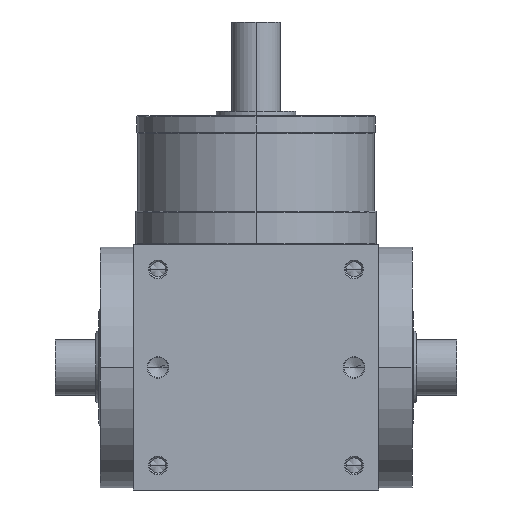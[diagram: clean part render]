
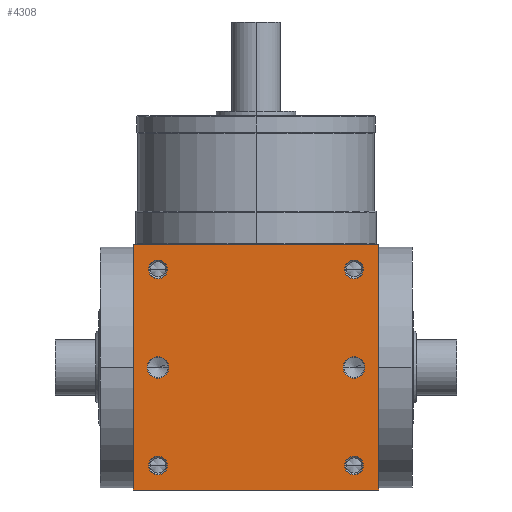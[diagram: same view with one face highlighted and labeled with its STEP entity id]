
A CAD part, front view. The second image highlights one B-rep face of the part: STEP entity #4308.
In plain terms, the highlighted planar face has unit normal (0, -1, 0).
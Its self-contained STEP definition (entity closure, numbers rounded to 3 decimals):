
#5=DIRECTION('',(1.,0.,0.));
#6=VECTOR('',#5,110.);
#7=CARTESIAN_POINT('',(-55.,-55.,-55.));
#8=LINE('',#7,#6);
#155=DIRECTION('',(0.,0.,1.));
#156=VECTOR('',#155,110.);
#157=CARTESIAN_POINT('',(55.,-55.,-55.));
#158=LINE('',#157,#156);
#209=DIRECTION('',(0.,0.,1.));
#210=VECTOR('',#209,110.);
#211=CARTESIAN_POINT('',(-55.,-55.,-55.));
#212=LINE('',#211,#210);
#213=CARTESIAN_POINT('',(44.,-55.,44.));
#214=DIRECTION('',(0.,1.,0.));
#215=DIRECTION('',(-1.,0.,0.));
#216=AXIS2_PLACEMENT_3D('',#213,#214,#215);
#218=CARTESIAN_POINT('',(44.,-55.,44.));
#219=DIRECTION('',(0.,1.,0.));
#220=DIRECTION('',(1.,0.,0.));
#221=AXIS2_PLACEMENT_3D('',#218,#219,#220);
#223=CARTESIAN_POINT('',(-44.,-55.,44.));
#224=DIRECTION('',(0.,1.,0.));
#225=DIRECTION('',(-1.,0.,0.));
#226=AXIS2_PLACEMENT_3D('',#223,#224,#225);
#228=CARTESIAN_POINT('',(-44.,-55.,44.));
#229=DIRECTION('',(0.,1.,0.));
#230=DIRECTION('',(1.,0.,0.));
#231=AXIS2_PLACEMENT_3D('',#228,#229,#230);
#233=CARTESIAN_POINT('',(44.,-55.,-44.));
#234=DIRECTION('',(0.,1.,0.));
#235=DIRECTION('',(-1.,0.,0.));
#236=AXIS2_PLACEMENT_3D('',#233,#234,#235);
#238=CARTESIAN_POINT('',(44.,-55.,-44.));
#239=DIRECTION('',(0.,1.,0.));
#240=DIRECTION('',(1.,0.,0.));
#241=AXIS2_PLACEMENT_3D('',#238,#239,#240);
#243=CARTESIAN_POINT('',(-44.,-55.,-44.));
#244=DIRECTION('',(0.,1.,0.));
#245=DIRECTION('',(-1.,0.,0.));
#246=AXIS2_PLACEMENT_3D('',#243,#244,#245);
#248=CARTESIAN_POINT('',(-44.,-55.,-44.));
#249=DIRECTION('',(0.,1.,0.));
#250=DIRECTION('',(1.,0.,0.));
#251=AXIS2_PLACEMENT_3D('',#248,#249,#250);
#253=CARTESIAN_POINT('',(-44.,-55.,0.));
#254=DIRECTION('',(0.,1.,0.));
#255=DIRECTION('',(1.,0.,0.));
#256=AXIS2_PLACEMENT_3D('',#253,#254,#255);
#258=CARTESIAN_POINT('',(-44.,-55.,0.));
#259=DIRECTION('',(0.,1.,0.));
#260=DIRECTION('',(-1.,0.,0.));
#261=AXIS2_PLACEMENT_3D('',#258,#259,#260);
#263=CARTESIAN_POINT('',(44.,-55.,0.));
#264=DIRECTION('',(0.,1.,0.));
#265=DIRECTION('',(1.,0.,0.));
#266=AXIS2_PLACEMENT_3D('',#263,#264,#265);
#268=CARTESIAN_POINT('',(44.,-55.,0.));
#269=DIRECTION('',(0.,1.,0.));
#270=DIRECTION('',(-1.,0.,0.));
#271=AXIS2_PLACEMENT_3D('',#268,#269,#270);
#285=DIRECTION('',(1.,0.,0.));
#286=VECTOR('',#285,110.);
#287=CARTESIAN_POINT('',(-55.,-55.,55.));
#288=LINE('',#287,#286);
#3474=CARTESIAN_POINT('',(-55.,-55.,-55.));
#3476=VERTEX_POINT('',#3474);
#3477=CARTESIAN_POINT('',(55.,-55.,-55.));
#3478=VERTEX_POINT('',#3477);
#3482=CARTESIAN_POINT('',(-55.,-55.,55.));
#3484=VERTEX_POINT('',#3482);
#3485=CARTESIAN_POINT('',(55.,-55.,55.));
#3486=VERTEX_POINT('',#3485);
#3641=CARTESIAN_POINT('',(39.8,-55.,44.));
#3642=CARTESIAN_POINT('',(48.2,-55.,44.));
#3643=VERTEX_POINT('',#3641);
#3644=VERTEX_POINT('',#3642);
#3649=CARTESIAN_POINT('',(-48.2,-55.,44.));
#3650=CARTESIAN_POINT('',(-39.8,-55.,44.));
#3651=VERTEX_POINT('',#3649);
#3652=VERTEX_POINT('',#3650);
#3657=CARTESIAN_POINT('',(39.8,-55.,-44.));
#3658=CARTESIAN_POINT('',(48.2,-55.,-44.));
#3659=VERTEX_POINT('',#3657);
#3660=VERTEX_POINT('',#3658);
#3665=CARTESIAN_POINT('',(-48.2,-55.,-44.));
#3666=CARTESIAN_POINT('',(-39.8,-55.,-44.));
#3667=VERTEX_POINT('',#3665);
#3668=VERTEX_POINT('',#3666);
#3989=CARTESIAN_POINT('',(-39.15,-55.,0.));
#3990=CARTESIAN_POINT('',(-48.85,-55.,
0.));
#3991=VERTEX_POINT('',#3989);
#3992=VERTEX_POINT('',#3990);
#3997=CARTESIAN_POINT('',(48.85,-55.,0.));
#3998=CARTESIAN_POINT('',(39.15,-55.,0.));
#3999=VERTEX_POINT('',#3997);
#4000=VERTEX_POINT('',#3998);
#4260=CARTESIAN_POINT('',(-55.,-55.,-55.));
#4261=DIRECTION('',(0.,-1.,0.));
#4262=DIRECTION('',(1.,0.,0.));
#4263=AXIS2_PLACEMENT_3D('',#4260,#4261,#4262);
#4264=PLANE('',#4263);
#4265=ORIENTED_EDGE('',*,*,#4100,.F.);
#4266=ORIENTED_EDGE('',*,*,#4143,.T.);
#4268=ORIENTED_EDGE('',*,*,#4267,.T.);
#4269=ORIENTED_EDGE('',*,*,#4222,.F.);
#4270=EDGE_LOOP('',(#4265,#4266,#4268,#4269));
#4271=FACE_OUTER_BOUND('',#4270,.F.);
#4273=ORIENTED_EDGE('',*,*,#4272,.F.);
#4275=ORIENTED_EDGE('',*,*,#4274,.F.);
#4276=EDGE_LOOP('',(#4273,#4275));
#4277=FACE_BOUND('',#4276,.F.);
#4279=ORIENTED_EDGE('',*,*,#4278,.F.);
#4281=ORIENTED_EDGE('',*,*,#4280,.F.);
#4282=EDGE_LOOP('',(#4279,#4281));
#4283=FACE_BOUND('',#4282,.F.);
#4285=ORIENTED_EDGE('',*,*,#4284,.F.);
#4287=ORIENTED_EDGE('',*,*,#4286,.F.);
#4288=EDGE_LOOP('',(#4285,#4287));
#4289=FACE_BOUND('',#4288,.F.);
#4291=ORIENTED_EDGE('',*,*,#4290,.F.);
#4293=ORIENTED_EDGE('',*,*,#4292,.F.);
#4294=EDGE_LOOP('',(#4291,#4293));
#4295=FACE_BOUND('',#4294,.F.);
#4297=ORIENTED_EDGE('',*,*,#4296,.F.);
#4299=ORIENTED_EDGE('',*,*,#4298,.F.);
#4300=EDGE_LOOP('',(#4297,#4299));
#4301=FACE_BOUND('',#4300,.F.);
#4303=ORIENTED_EDGE('',*,*,#4302,.F.);
#4305=ORIENTED_EDGE('',*,*,#4304,.F.);
#4306=EDGE_LOOP('',(#4303,#4305));
#4307=FACE_BOUND('',#4306,.F.);
#4308=ADVANCED_FACE('',(#4271,#4277,#4283,#4289,#4295,#4301,#4307),#4264,.T.);
#217=CIRCLE('',#216,4.2);
#222=CIRCLE('',#221,4.2);
#227=CIRCLE('',#226,4.2);
#232=CIRCLE('',#231,4.2);
#237=CIRCLE('',#236,4.2);
#242=CIRCLE('',#241,4.2);
#247=CIRCLE('',#246,4.2);
#252=CIRCLE('',#251,4.2);
#257=CIRCLE('',#256,4.85);
#262=CIRCLE('',#261,4.85);
#267=CIRCLE('',#266,4.85);
#272=CIRCLE('',#271,4.85);
#4100=EDGE_CURVE('',#3476,#3478,#8,.T.);
#4143=EDGE_CURVE('',#3476,#3484,#212,.T.);
#4222=EDGE_CURVE('',#3478,#3486,#158,.T.);
#4267=EDGE_CURVE('',#3484,#3486,#288,.T.);
#4272=EDGE_CURVE('',#3643,#3644,#217,.T.);
#4274=EDGE_CURVE('',#3644,#3643,#222,.T.);
#4278=EDGE_CURVE('',#3651,#3652,#227,.T.);
#4280=EDGE_CURVE('',#3652,#3651,#232,.T.);
#4284=EDGE_CURVE('',#3659,#3660,#237,.T.);
#4286=EDGE_CURVE('',#3660,#3659,#242,.T.);
#4290=EDGE_CURVE('',#3667,#3668,#247,.T.);
#4292=EDGE_CURVE('',#3668,#3667,#252,.T.);
#4296=EDGE_CURVE('',#3991,#3992,#257,.T.);
#4298=EDGE_CURVE('',#3992,#3991,#262,.T.);
#4302=EDGE_CURVE('',#3999,#4000,#267,.T.);
#4304=EDGE_CURVE('',#4000,#3999,#272,.T.);
